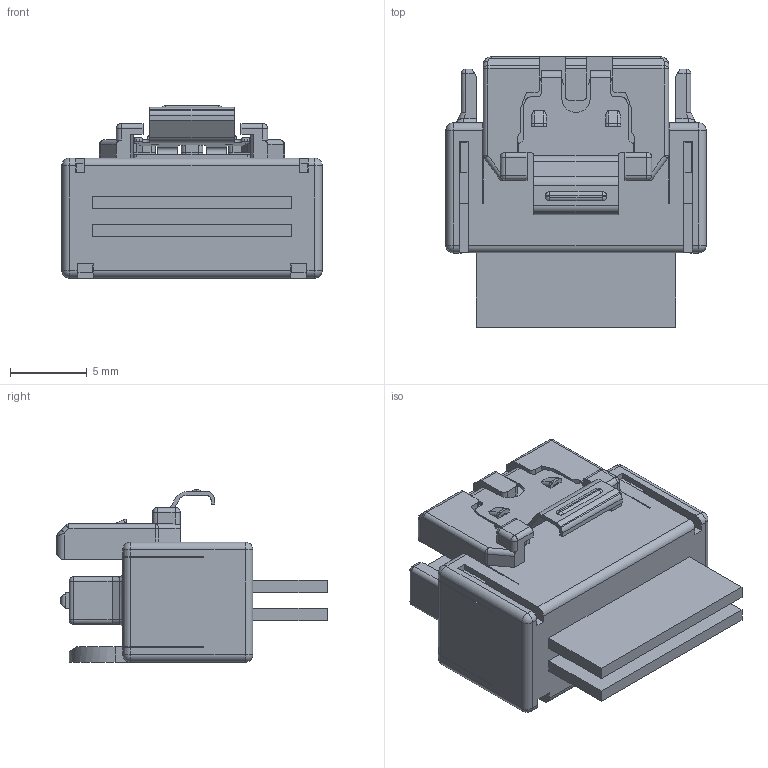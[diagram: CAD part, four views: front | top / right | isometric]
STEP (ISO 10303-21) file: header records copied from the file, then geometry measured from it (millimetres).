
FILE_DESCRIPTION((''),'2;1');
FILE_NAME('X4_STR_LOW_PROFILE_SLIMSAS_PLUG','2017-10-20T',('bobtang'),(''),'CREO PARAMETRIC BY PTC INC, 2014190','CREO PARAMETRIC BY PTC INC, 2014190','');
FILE_SCHEMA(('STRUCTURAL_ANALYSIS_DESIGN'));
Length unit declared in the file: millimetre
Products named in the file (1): X4_STR_LOW_PROFILE_SLIMSAS_PLUG
Bounding box: 17 x 17.65 x 11.26 mm (x, y, z)
Volume: 1411.7 mm3; surface area: 2080.3 mm2
Topology: 1 solids, 6 shells, 629 faces, 1705 edges, 1098 vertices
Faces by surface type: plane 360, cylinder 158, extrusion 73, sphere 16, bspline 14, torus 8
Entity records: 20641 total; most frequent: CARTESIAN_POINT 4992, ORIENTED_EDGE 3390, DIRECTION 2954, EDGE_CURVE 1701, VECTOR 1260, LINE 1187, VERTEX_POINT 1098, AXIS2_PLACEMENT_3D 847
